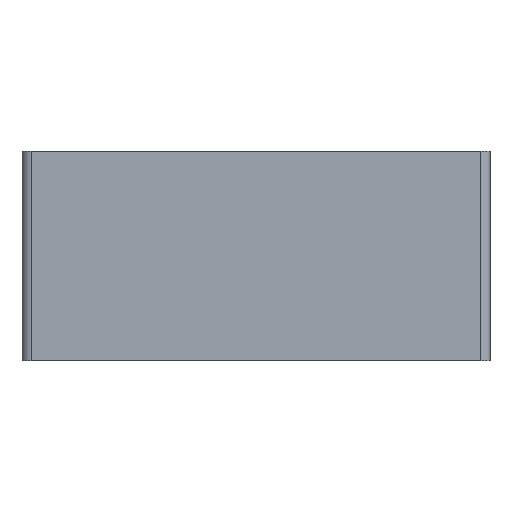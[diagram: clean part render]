
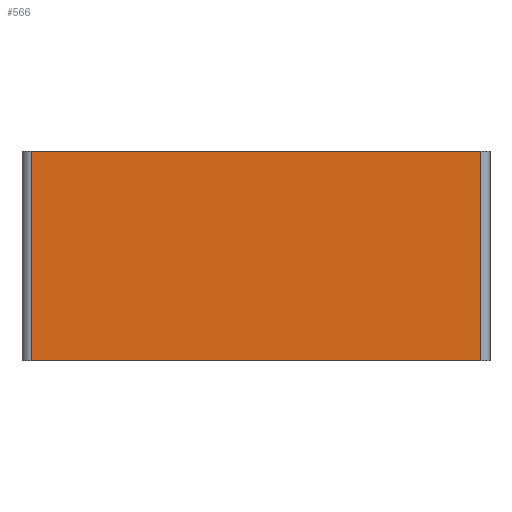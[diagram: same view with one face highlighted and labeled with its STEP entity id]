
A CAD part, front view. The second image highlights one B-rep face of the part: STEP entity #566.
In plain terms, the highlighted planar face has unit normal (0, -1, 0).
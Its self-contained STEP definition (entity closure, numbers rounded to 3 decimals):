
#44 = PLANE('',#45);
#45 = AXIS2_PLACEMENT_3D('',#46,#47,#48);
#46 = CARTESIAN_POINT('',(-6.3,67.3,-2.35));
#47 = DIRECTION('',(0.,0.,1.));
#48 = DIRECTION('',(1.,0.,0.));
#72 = CYLINDRICAL_SURFACE('',#73,0.25);
#73 = AXIS2_PLACEMENT_3D('',#74,#75,#76);
#74 = CARTESIAN_POINT('',(-6.05,67.55,-8.));
#75 = DIRECTION('',(0.,0.,1.));
#76 = DIRECTION('',(-1.,-0.,0.));
#100 = PLANE('',#101);
#101 = AXIS2_PLACEMENT_3D('',#102,#103,#104);
#102 = CARTESIAN_POINT('',(-6.3,67.3,-8.));
#103 = DIRECTION('',(0.,0.,1.));
#104 = DIRECTION('',(1.,0.,0.));
#143 = VERTEX_POINT('',#144);
#144 = CARTESIAN_POINT('',(-6.05,67.3,-2.35));
#166 = EDGE_CURVE('',#143,#167,#169,.T.);
#167 = VERTEX_POINT('',#168);
#168 = CARTESIAN_POINT('',(6.05,67.3,-2.35));
#169 = SURFACE_CURVE('',#170,(#174,#181),.PCURVE_S1.);
#170 = LINE('',#171,#172);
#171 = CARTESIAN_POINT('',(-6.3,67.3,-2.35));
#172 = VECTOR('',#173,1.);
#173 = DIRECTION('',(1.,0.,0.));
#174 = PCURVE('',#44,#175);
#175 = DEFINITIONAL_REPRESENTATION('',(#176),#180);
#176 = LINE('',#177,#178);
#177 = CARTESIAN_POINT('',(0.,0.));
#178 = VECTOR('',#179,1.);
#179 = DIRECTION('',(1.,0.));
#180 = ( GEOMETRIC_REPRESENTATION_CONTEXT(2) 
PARAMETRIC_REPRESENTATION_CONTEXT() REPRESENTATION_CONTEXT('2D SPACE',''
  ) );
#181 = PCURVE('',#182,#187);
#182 = PLANE('',#183);
#183 = AXIS2_PLACEMENT_3D('',#184,#185,#186);
#184 = CARTESIAN_POINT('',(-6.3,67.3,-8.));
#185 = DIRECTION('',(0.,1.,0.));
#186 = DIRECTION('',(0.,0.,1.));
#187 = DEFINITIONAL_REPRESENTATION('',(#188),#192);
#188 = LINE('',#189,#190);
#189 = CARTESIAN_POINT('',(5.65,0.));
#190 = VECTOR('',#191,1.);
#191 = DIRECTION('',(0.,1.));
#192 = ( GEOMETRIC_REPRESENTATION_CONTEXT(2) 
PARAMETRIC_REPRESENTATION_CONTEXT() REPRESENTATION_CONTEXT('2D SPACE',''
  ) );
#215 = CYLINDRICAL_SURFACE('',#216,0.25);
#216 = AXIS2_PLACEMENT_3D('',#217,#218,#219);
#217 = CARTESIAN_POINT('',(6.05,67.55,-8.));
#218 = DIRECTION('',(0.,0.,1.));
#219 = DIRECTION('',(1.,0.,-0.));
#342 = VERTEX_POINT('',#343);
#343 = CARTESIAN_POINT('',(-6.05,67.3,-8.));
#365 = EDGE_CURVE('',#342,#143,#366,.T.);
#366 = SURFACE_CURVE('',#367,(#371,#378),.PCURVE_S1.);
#367 = LINE('',#368,#369);
#368 = CARTESIAN_POINT('',(-6.05,67.3,-8.));
#369 = VECTOR('',#370,1.);
#370 = DIRECTION('',(0.,0.,1.));
#371 = PCURVE('',#72,#372);
#372 = DEFINITIONAL_REPRESENTATION('',(#373),#377);
#373 = LINE('',#374,#375);
#374 = CARTESIAN_POINT('',(1.571,0.));
#375 = VECTOR('',#376,1.);
#376 = DIRECTION('',(0.,1.));
#377 = ( GEOMETRIC_REPRESENTATION_CONTEXT(2) 
PARAMETRIC_REPRESENTATION_CONTEXT() REPRESENTATION_CONTEXT('2D SPACE',''
  ) );
#378 = PCURVE('',#182,#379);
#379 = DEFINITIONAL_REPRESENTATION('',(#380),#384);
#380 = LINE('',#381,#382);
#381 = CARTESIAN_POINT('',(0.,0.25));
#382 = VECTOR('',#383,1.);
#383 = DIRECTION('',(1.,0.));
#384 = ( GEOMETRIC_REPRESENTATION_CONTEXT(2) 
PARAMETRIC_REPRESENTATION_CONTEXT() REPRESENTATION_CONTEXT('2D SPACE',''
  ) );
#447 = EDGE_CURVE('',#342,#448,#450,.T.);
#448 = VERTEX_POINT('',#449);
#449 = CARTESIAN_POINT('',(6.05,67.3,-8.));
#450 = SURFACE_CURVE('',#451,(#455,#462),.PCURVE_S1.);
#451 = LINE('',#452,#453);
#452 = CARTESIAN_POINT('',(-6.3,67.3,-8.));
#453 = VECTOR('',#454,1.);
#454 = DIRECTION('',(1.,0.,0.));
#455 = PCURVE('',#100,#456);
#456 = DEFINITIONAL_REPRESENTATION('',(#457),#461);
#457 = LINE('',#458,#459);
#458 = CARTESIAN_POINT('',(0.,0.));
#459 = VECTOR('',#460,1.);
#460 = DIRECTION('',(1.,0.));
#461 = ( GEOMETRIC_REPRESENTATION_CONTEXT(2) 
PARAMETRIC_REPRESENTATION_CONTEXT() REPRESENTATION_CONTEXT('2D SPACE',''
  ) );
#462 = PCURVE('',#182,#463);
#463 = DEFINITIONAL_REPRESENTATION('',(#464),#468);
#464 = LINE('',#465,#466);
#465 = CARTESIAN_POINT('',(0.,0.));
#466 = VECTOR('',#467,1.);
#467 = DIRECTION('',(0.,1.));
#468 = ( GEOMETRIC_REPRESENTATION_CONTEXT(2) 
PARAMETRIC_REPRESENTATION_CONTEXT() REPRESENTATION_CONTEXT('2D SPACE',''
  ) );
#566 = ADVANCED_FACE('',(#567),#182,.F.);
#567 = FACE_BOUND('',#568,.F.);
#568 = EDGE_LOOP('',(#569,#570,#571,#572));
#569 = ORIENTED_EDGE('',*,*,#447,.F.);
#570 = ORIENTED_EDGE('',*,*,#365,.T.);
#571 = ORIENTED_EDGE('',*,*,#166,.T.);
#572 = ORIENTED_EDGE('',*,*,#573,.F.);
#573 = EDGE_CURVE('',#448,#167,#574,.T.);
#574 = SURFACE_CURVE('',#575,(#579,#586),.PCURVE_S1.);
#575 = LINE('',#576,#577);
#576 = CARTESIAN_POINT('',(6.05,67.3,-8.));
#577 = VECTOR('',#578,1.);
#578 = DIRECTION('',(0.,0.,1.));
#579 = PCURVE('',#182,#580);
#580 = DEFINITIONAL_REPRESENTATION('',(#581),#585);
#581 = LINE('',#582,#583);
#582 = CARTESIAN_POINT('',(0.,12.35));
#583 = VECTOR('',#584,1.);
#584 = DIRECTION('',(1.,0.));
#585 = ( GEOMETRIC_REPRESENTATION_CONTEXT(2) 
PARAMETRIC_REPRESENTATION_CONTEXT() REPRESENTATION_CONTEXT('2D SPACE',''
  ) );
#586 = PCURVE('',#215,#587);
#587 = DEFINITIONAL_REPRESENTATION('',(#588),#592);
#588 = LINE('',#589,#590);
#589 = CARTESIAN_POINT('',(-1.571,0.));
#590 = VECTOR('',#591,1.);
#591 = DIRECTION('',(-0.,1.));
#592 = ( GEOMETRIC_REPRESENTATION_CONTEXT(2) 
PARAMETRIC_REPRESENTATION_CONTEXT() REPRESENTATION_CONTEXT('2D SPACE',''
  ) );
